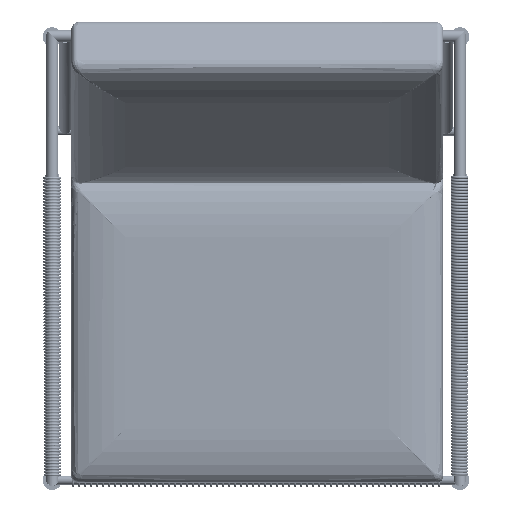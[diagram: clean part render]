
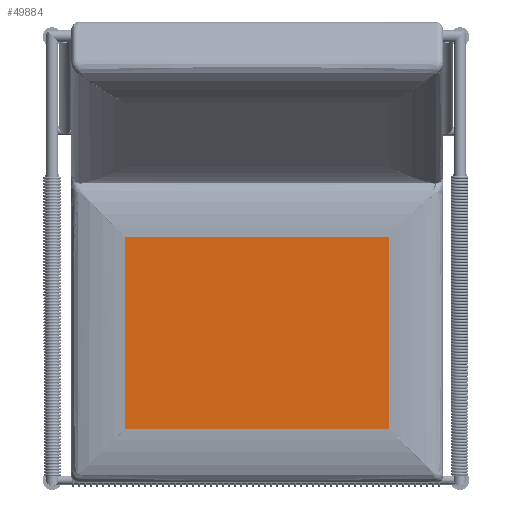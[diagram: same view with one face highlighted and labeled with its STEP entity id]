
A CAD part, top view. The second image highlights one B-rep face of the part: STEP entity #49884.
In plain terms, the highlighted planar face has unit normal (0, 0, 1).
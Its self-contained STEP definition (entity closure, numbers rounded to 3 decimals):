
#9512=LINE('',#99943,#11034);
#9513=LINE('',#99998,#11035);
#9517=LINE('',#100294,#11039);
#9520=LINE('',#100678,#11042);
#11034=VECTOR('',#78327,10.);
#11035=VECTOR('',#78328,10.);
#11039=VECTOR('',#78346,10.);
#11042=VECTOR('',#78361,10.);
#14946=FACE_OUTER_BOUND('',#17524,.T.);
#17524=EDGE_LOOP('',(#47093,#47094,#47095,#47096));
#23126=VERTEX_POINT('',#99818);
#23131=VERTEX_POINT('',#99942);
#23133=VERTEX_POINT('',#99977);
#23141=VERTEX_POINT('',#100293);
#31097=EDGE_CURVE('',#23126,#23131,#9512,.T.);
#31101=EDGE_CURVE('',#23133,#23126,#9513,.T.);
#31118=EDGE_CURVE('',#23131,#23141,#9517,.T.);
#31131=EDGE_CURVE('',#23141,#23133,#9520,.T.);
#47093=ORIENTED_EDGE('',*,*,#31131,.F.);
#47094=ORIENTED_EDGE('',*,*,#31118,.F.);
#47095=ORIENTED_EDGE('',*,*,#31097,.F.);
#47096=ORIENTED_EDGE('',*,*,#31101,.F.);
#47376=PLANE('',#59579);
#49884=ADVANCED_FACE('',(#14946),#47376,.T.);
#59579=AXIS2_PLACEMENT_3D('',#100679,#78362,#78363);
#78327=DIRECTION('',(1.,0.,0.));
#78328=DIRECTION('',(0.,1.,0.));
#78346=DIRECTION('',(0.,-1.,0.));
#78361=DIRECTION('',(-1.,0.,0.));
#78362=DIRECTION('center_axis',(0.,0.,
1.));
#78363=DIRECTION('ref_axis',(1.,0.,0.));
#99818=CARTESIAN_POINT('',(121.849,-334.216,371.195));
#99942=CARTESIAN_POINT('',(562.298,-334.216,371.195));
#99943=CARTESIAN_POINT('',(32.074,-334.216,371.195));
#99977=CARTESIAN_POINT('',(121.849,-654.25,371.195));
#99998=CARTESIAN_POINT('',(121.849,-744.026,371.195));
#100293=CARTESIAN_POINT('',(562.298,-654.25,371.195));
#100294=CARTESIAN_POINT('',(562.298,-244.441,371.195));
#100678=CARTESIAN_POINT('',(652.074,-654.25,371.195));
#100679=CARTESIAN_POINT('Origin',(342.074,-494.233,371.195));
